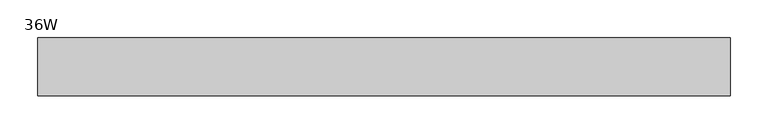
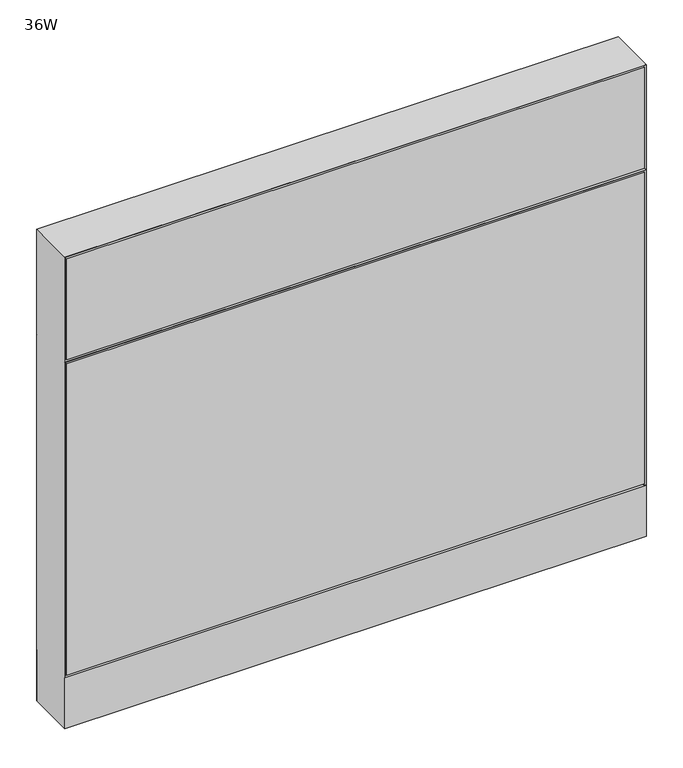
"""IFC4 building model written with IfcOpenShell, lengths in millimetres: furniture geometry, Steelcase - Montage - Frame - 31H - Enhanced Standard - Base Cavity : 36W."""

import ifcopenshell
import ifcopenshell.guid

model = None  # the IFC model being written
_history = None  # IfcOwnerHistory: only IFC2X3 demands one
_inside = {}  # id of a spatial element -> (the spatial element, [elements in it])
_under = {}  # id of a project, library or spatial element -> (it, [spatial elements below it])
_declared = {}  # id of a project -> (the project, [libraries it declares])
_typed = {}  # id of a type object -> (the type object, [elements of that type])
_made_of = {}  # id of a material, layer set ... -> (it, [elements and type objects made of it])


def new_model(schema):
    """Start an empty IFC model of exactly this schema.

    Asked for "IFC4X3", IfcOpenShell would pick the latest addendum, in which some entities
    have other attributes; the version numbers below select the first issue.
    IFC2X3 requires an IfcOwnerHistory on every rooted entity: one is made here for all.
    """
    global model, _history
    if schema == "IFC4X3":
        model = ifcopenshell.file(schema_version=(4, 3, 0, 0))
    else:
        model = ifcopenshell.file(schema=schema)
    _inside.clear()
    _under.clear()
    _declared.clear()
    _typed.clear()
    _made_of.clear()
    _history = None
    if model.schema == "IFC2X3":
        org = make("IfcOrganization", Name="unknown")
        user = make(
            "IfcPersonAndOrganization",
            ThePerson=make("IfcPerson", FamilyName="unknown"),
            TheOrganization=org,
        )
        app = make(
            "IfcApplication",
            ApplicationDeveloper=org,
            Version="unknown",
            ApplicationFullName="unknown",
            ApplicationIdentifier="unknown",
        )
        _history = make(
            "IfcOwnerHistory",
            OwningUser=user,
            OwningApplication=app,
            ChangeAction="ADDED",
            CreationDate=0,
        )
    return model


def make(cls, **values):
    """One entity of the class cls with the attributes given. An attribute that is None is left unset."""
    return model.create_entity(
        cls, **{name: value for name, value in values.items() if value is not None}
    )


def rooted(cls, **values):
    """An entity with a GlobalId (a new one), such as an element, a storey or a relation."""
    return make(cls, GlobalId=ifcopenshell.guid.new(), OwnerHistory=_history, **values)


def si_unit(unit_type, name, prefix=None):
    """IfcSIUnit, for example si_unit("LENGTHUNIT", "METRE", prefix="MILLI")."""
    return make("IfcSIUnit", UnitType=unit_type, Prefix=prefix, Name=name)


def assignment(units):
    """IfcUnitAssignment: the units of a project."""
    return None if units is None else make("IfcUnitAssignment", Units=units)


def point(xyz):
    """IfcCartesianPoint."""
    return None if xyz is None else make("IfcCartesianPoint", Coordinates=xyz)


def direction(xyz):
    """IfcDirection."""
    return None if xyz is None else make("IfcDirection", DirectionRatios=xyz)


def frame(location, z_axis=None, x_axis=None):
    """IfcAxis2Placement3D, a coordinate frame: its origin and axes. An axis left out is left unset."""
    return make(
        "IfcAxis2Placement3D",
        Location=point(location),
        Axis=direction(z_axis),
        RefDirection=direction(x_axis),
    )


def frame_2d(location, x_axis=None):
    """IfcAxis2Placement2D, a coordinate frame in the plane: its origin and x axis."""
    return make(
        "IfcAxis2Placement2D", Location=point(location), RefDirection=direction(x_axis)
    )


def origin():
    """The frame at (0, 0, 0) with its axes left unset."""
    return frame((0.0, 0.0, 0.0))


def origin_with_axes():
    """The frame at (0, 0, 0) with the z axis (0, 0, 1) and the x axis (1, 0, 0) written out."""
    return frame((0.0, 0.0, 0.0), z_axis=(0.0, 0.0, 1.0), x_axis=(1.0, 0.0, 0.0))


def place(relative_to, where):
    """IfcLocalPlacement: puts the frame where relative to a parent placement (None: the world)."""
    return make(
        "IfcLocalPlacement", PlacementRelTo=relative_to, RelativePlacement=where
    )


def context(
    kind, dimensions, precision=None, world=None, true_north=None, identifier=None
):
    """IfcGeometricRepresentationContext, for example the 3D "Model" context."""
    return make(
        "IfcGeometricRepresentationContext",
        ContextIdentifier=identifier,
        ContextType=kind,
        CoordinateSpaceDimension=dimensions,
        Precision=precision,
        WorldCoordinateSystem=world,
        TrueNorth=true_north,
    )


def project(units=None, contexts=None):
    """IfcProject with its units and contexts."""
    return rooted(
        "IfcProject",
        Name="project",
        RepresentationContexts=contexts,
        UnitsInContext=assignment(units),
    )


def spatial(cls, under=None, at=None, **own):
    """A site, building, storey or space (cls), placed at a placement, below another one or the project."""
    s = rooted(cls, ObjectPlacement=at, **own)
    if under is not None:
        _under.setdefault(under.id(), (under, []))[1].append(s)
    return s


def polyline(points):
    """IfcPolyline through the points."""
    return make("IfcPolyline", Points=[point(p) for p in points])


def circle_curve(where, radius):
    """IfcCircle in the frame where."""
    return make("IfcCircle", Position=where, Radius=radius)


def trimmed(basis, trim1, trim2, sense, master):
    """IfcTrimmedCurve: the piece of a basis curve between two trims."""
    return make(
        "IfcTrimmedCurve",
        BasisCurve=basis,
        Trim1=trim1,
        Trim2=trim2,
        SenseAgreement=sense,
        MasterRepresentation=master,
    )


def segment(curve, same_sense, transition):
    """IfcCompositeCurveSegment."""
    return make(
        "IfcCompositeCurveSegment",
        Transition=transition,
        SameSense=same_sense,
        ParentCurve=curve,
    )


def composite_curve(segments, self_intersect=None):
    """IfcCompositeCurve: segments joined end to end."""
    return make("IfcCompositeCurve", Segments=segments, SelfIntersect=self_intersect)


def outline(outer, holes=None, kind="AREA"):
    """IfcArbitraryClosedProfileDef: a profile drawn as a closed curve; with holes, ...WithVoids."""
    if holes is None:
        return make("IfcArbitraryClosedProfileDef", ProfileType=kind, OuterCurve=outer)
    return make(
        "IfcArbitraryProfileDefWithVoids",
        ProfileType=kind,
        OuterCurve=outer,
        InnerCurves=holes,
    )


def extrude(swept, where, along, depth):
    """IfcExtrudedAreaSolid: the profile swept, set in the frame where, extruded along a direction by depth."""
    return make(
        "IfcExtrudedAreaSolid",
        SweptArea=swept,
        Position=where,
        ExtrudedDirection=direction(along),
        Depth=depth,
    )


def faces_of(points, faces, orient=None, outer=None):
    """IfcFace entities. A face is a list of loops; a loop is a list of indices into points, from 0.

    orient and outer hold one flag for each loop. By default every Orientation is true, the
    first loop of a face is its IfcFaceOuterBound and the others are IfcFaceBound.
    """
    made = []
    for i, loops in enumerate(faces):
        bounds = []
        for j, loop in enumerate(loops):
            is_outer = j == 0 if outer is None else outer[i][j]
            bounds.append(
                make(
                    "IfcFaceOuterBound" if is_outer else "IfcFaceBound",
                    Bound=make("IfcPolyLoop", Polygon=[points[k] for k in loop]),
                    Orientation=True if orient is None else orient[i][j],
                )
            )
        made.append(make("IfcFace", Bounds=bounds))
    return made


def faceted_brep(points, faces, orient=None, outer=None, voids=None):
    """IfcFacetedBrep: a solid bounded by flat faces; with voids (closed shells), ...WithVoids."""
    shared = [point(p) for p in points]
    hull = make("IfcClosedShell", CfsFaces=faces_of(shared, faces, orient, outer))
    if voids is None:
        return make("IfcFacetedBrep", Outer=hull)
    return make(
        "IfcFacetedBrepWithVoids",
        Outer=hull,
        Voids=[
            make(cls, CfsFaces=faces_of(shared, fs, o, b)) for cls, fs, o, b in voids
        ],
    )


def shape(context_of_items, identifier, shape_type, items):
    """IfcShapeRepresentation: the items that make up one representation, for example the "Body"."""
    return make(
        "IfcShapeRepresentation",
        ContextOfItems=context_of_items,
        RepresentationIdentifier=identifier,
        RepresentationType=shape_type,
        Items=items,
    )


def source(mapping_origin, context_of_items, identifier, shape_type, items):
    """IfcRepresentationMap: a shape defined once, which mapped items show again and again."""
    return make(
        "IfcRepresentationMap",
        MappingOrigin=mapping_origin,
        MappedRepresentation=shape(context_of_items, identifier, shape_type, items),
    )


def transform(
    local_origin,
    x_axis=None,
    y_axis=None,
    z_axis=None,
    scale=None,
    scale2=None,
    scale3=None,
    uniform=True,
):
    """IfcCartesianTransformationOperator3D, or its non-uniform kind. x_axis, y_axis, z_axis: its Axis1, 2, 3."""
    if uniform:
        return make(
            "IfcCartesianTransformationOperator3D",
            Axis1=direction(x_axis),
            Axis2=direction(y_axis),
            LocalOrigin=point(local_origin),
            Scale=scale,
            Axis3=direction(z_axis),
        )
    return make(
        "IfcCartesianTransformationOperator3DnonUniform",
        Axis1=direction(x_axis),
        Axis2=direction(y_axis),
        LocalOrigin=point(local_origin),
        Scale=scale,
        Axis3=direction(z_axis),
        Scale2=scale2,
        Scale3=scale3,
    )


def mapped(mapping_source, mapping_target):
    """IfcMappedItem: shows the shape of a source again, moved by a transform."""
    return make(
        "IfcMappedItem", MappingSource=mapping_source, MappingTarget=mapping_target
    )


def made_of(thing, what):
    """Note that an element or type object is made of a material, layer set ...; save() writes the relation."""
    if what is not None:
        _made_of.setdefault(what.id(), (what, []))[1].append(thing)
    return thing


def element(
    cls,
    number,
    at=None,
    inside=None,
    cuts=None,
    type_object=None,
    material=None,
    context=None,
    identifier="Body",
    shape_type=None,
    held_by="IfcProductDefinitionShape",
    body=None,
    shapes=None,
    **own,
):
    """One element of the class cls, such as IfcWall. Its Tag is "e" and its number.

    at: its placement. inside: the storey or other place that contains it. cuts: it is an
    opening in that element (IfcRelVoidsElement). A single representation is given by context,
    identifier, shape_type and body (its items); several are given by shapes. held_by: the class
    of the entity that holds the representations. save() writes the other relations.
    """
    e = rooted(cls, Tag="e%d" % number, ObjectPlacement=at, **own)
    if body is not None:
        shapes = [shape(context, identifier, shape_type, body)]
    if shapes is not None:
        e.Representation = make(held_by, Representations=shapes)
    if inside is not None:
        _inside.setdefault(inside.id(), (inside, []))[1].append(e)
    if cuts is not None:
        rooted(
            "IfcRelVoidsElement", RelatingBuildingElement=cuts, RelatedOpeningElement=e
        )
    if type_object is not None:
        _typed.setdefault(type_object.id(), (type_object, []))[1].append(e)
    return made_of(e, material)


def aggregate(whole, parts):
    """IfcRelAggregates: a whole, such as a stair, and the parts it consists of."""
    return rooted("IfcRelAggregates", RelatingObject=whole, RelatedObjects=parts)


def save(model, path):
    """Write the relations noted so far, then the file.

    IfcRelAggregates (storeys below a building ...), IfcRelContainedInSpatialStructure (elements
    in a storey), IfcRelDefinesByType, IfcRelAssociatesMaterial and IfcRelDeclares: one each for
    every whole, place, type object, material and project.
    """
    for whole, parts in _under.values():
        aggregate(whole, parts)
    for where, things in _inside.values():
        rooted(
            "IfcRelContainedInSpatialStructure",
            RelatedElements=things,
            RelatingStructure=where,
        )
    for kind, things in _typed.values():
        rooted("IfcRelDefinesByType", RelatedObjects=things, RelatingType=kind)
    for what, things in _made_of.values():
        rooted("IfcRelAssociatesMaterial", RelatedObjects=things, RelatingMaterial=what)
    for by, libraries in _declared.values():
        rooted("IfcRelDeclares", RelatingContext=by, RelatedDefinitions=libraries)
    model.write(path)


def furniture_36w_22e25451(model_context):
    return source(origin(), model_context, "Body", "SolidModel", [
        faceted_brep([(-5.7e-06, 38.1026268, 612.7750028), (6.3499913, 31.7526299, 619.1249997), (908.0500048, 31.7526299, 619.1249997), (914.4, 38.1026251, 612.7750045), (908.0500048, 31.7526299, 606.4250003), (6.3499913, 31.7526299, 606.4250003)], [[[0, 1, 2, 3]], [[3, 4, 5, 0]], [[1, 5, 4, 2]], [[0, 5, 1]], [[2, 4, 3]]]),
        extrude(outline(polyline([(3.175, 31.7500194), (3.175, 38.1000194), (911.225, 38.1000194), (911.225, 31.7500194), (3.175, 31.7500194)])), frame((0.0, 0.0, 92.075), z_axis=(0.0, 0.0, 1.0), x_axis=(1.0, 0.0, 0.0)), (0.0, 0.0, 1.0), 517.525),
        extrude(outline(polyline([(3.175, 31.7500194), (3.175, 38.1000194), (911.225, 38.1000194), (911.225, 31.7500194), (3.175, 31.7500194)])), frame((0.0, 0.0, 615.95), z_axis=(0.0, 0.0, 1.0), x_axis=(1.0, 0.0, 0.0)), (0.0, 0.0, 1.0), 168.275),
        faceted_brep([(0.0, -38.1026297, 612.775), (914.4, -38.1026297, 612.775), (908.0500048, -31.7526299, 619.1249997), (6.3499913, -31.7526299, 619.1249997), (6.3499913, -31.7526299, 606.4250003), (908.0500048, -31.7526299, 606.4250003)], [[[0, 1, 2, 3]], [[1, 0, 4, 5]], [[3, 2, 5, 4]], [[0, 3, 4]], [[2, 1, 5]]]),
        extrude(outline(polyline([(3.175, -31.7500194), (911.225, -31.7500194), (911.225, -38.1000194), (3.175, -38.1000194), (3.175, -31.7500194)])), frame((0.0, 0.0, 92.075), z_axis=(0.0, 0.0, 1.0), x_axis=(1.0, 0.0, 0.0)), (0.0, 0.0, 1.0), 517.525),
        extrude(outline(polyline([(3.175, -31.7500194), (911.225, -31.7500194), (911.225, -38.1000194), (3.175, -38.1000194), (3.175, -31.7500194)])), frame((0.0, 0.0, 615.95), z_axis=(0.0, 0.0, 1.0), x_axis=(1.0, 0.0, 0.0)), (0.0, 0.0, 1.0), 168.275),
        extrude(outline(polyline([(6.350003, -31.7499985), (908.049997, -31.7499985), (914.4, -38.1000015), (0.0, -38.1000015), (6.350003, -31.7499985)])), frame((0.0, 0.0, 4.064), z_axis=(0.0, 0.0, 1.0), x_axis=(1.0, 0.0, 0.0)), (0.0, 0.0, 1.0), 84.835997),
        extrude(outline(polyline([(6.3500002, 31.7500017), (0.0, 38.1000015), (914.4, 38.1000015), (908.0500002, 31.7500017), (6.3500002, 31.7500017)])), frame((0.0, 0.0, 4.064), z_axis=(0.0, 0.0, 1.0), x_axis=(1.0, 0.0, 0.0)), (0.0, 0.0, 1.0), 84.835997),
        faceted_brep([(914.4, -38.1000015, 787.4), (0.0, -38.1000015, 787.4), (6.3500484, -31.749953, 781.0499516), (908.0499516, -31.749953, 781.0499516), (6.3500484, 31.749953, 781.0499516), (908.0499516, 31.749953, 781.0499516), (0.0, 38.1000015, 787.4), (914.4, 38.1000015, 787.4)], [[[0, 1, 2, 3]], [[3, 2, 4, 5]], [[6, 7, 5, 4]], [[1, 0, 7, 6]], [[2, 1, 6, 4]], [[0, 3, 5, 7]]]),
        extrude(outline(composite_curve([segment(trimmed(circle_curve(frame_2d((44.45, 0.0)), 15.24), [point((29.21, 0.0))], [point((59.69, 0.0))], False, "CARTESIAN"), True, "CONTINUOUS"), segment(trimmed(circle_curve(frame_2d((44.45, 0.0)), 15.24), [point((59.69, 0.0))], [point((29.21, 0.0))], False, "CARTESIAN"), True, "CONTINUOUS")], self_intersect=False)), origin_with_axes(), (0.0, 0.0, 1.0), 4.064),
        extrude(outline(composite_curve([segment(trimmed(circle_curve(frame_2d((869.95, 0.0)), 15.24), [point((854.71, 0.0))], [point((885.19, 0.0))], False, "CARTESIAN"), True, "CONTINUOUS"), segment(trimmed(circle_curve(frame_2d((869.95, 0.0)), 15.24), [point((885.19, 0.0))], [point((854.71, 0.0))], False, "CARTESIAN"), True, "CONTINUOUS")], self_intersect=False)), origin_with_axes(), (0.0, 0.0, 1.0), 4.064),
        faceted_brep([(914.4, -38.1000106, 4.064), (914.4, 38.1000015, 4.064), (914.4, 38.1000015, 787.4), (914.4, -38.1000106, 787.3999637), (0.0, 38.1000015, 4.064), (0.0, -38.1000015, 4.064), (0.0, -38.1000015, 787.4), (0.0, 38.1000015, 787.4), (908.0499879, 31.7500017, 606.425), (6.35, 31.7500017, 606.425), (6.3499998, 31.7500017, 619.125), (908.0499879, 31.7500017, 619.125), (6.35, -31.7499985, 619.125), (908.0499879, -31.7499985, 619.125), (6.350003, -31.7499985, 606.425), (908.0499879, -31.7499985, 606.425), (6.35, 31.7500015, 4.064), (6.35, -31.7500015, 4.064), (908.0499879, 31.7499894, 4.064), (908.0499879, -31.7499985, 4.064), (6.35, 31.7500015, 781.05), (6.35, -31.7500015, 781.05), (908.0499879, -31.7499985, 781.0499516), (908.0499879, 31.7499898, 781.0499516)], [[[0, 1, 2, 3]], [[4, 5, 6, 7]], [[8, 9, 10, 11]], [[11, 10, 12, 13]], [[13, 12, 14, 15]], [[9, 8, 15, 14]], [[16, 17, 5, 4]], [[18, 1, 0, 19]], [[16, 4, 7, 20, 10, 9]], [[5, 17, 14, 12, 21, 6]], [[17, 16, 9, 14]], [[12, 10, 20, 21]], [[18, 19, 15, 8]], [[11, 13, 22, 23]], [[19, 0, 3, 22, 13, 15]], [[1, 18, 8, 11, 23, 2]], [[7, 6, 21, 20]], [[3, 2, 23, 22]]]),
    ])


if __name__ == "__main__":
    model = new_model("IFC4")
    model_context = context("Model", 3, world=origin())
    ifc_project = project(units=[si_unit("LENGTHUNIT", "METRE", prefix="MILLI")], contexts=[model_context])
    site = spatial("IfcSite", under=ifc_project)
    building = spatial("IfcBuilding", under=site)
    placement = place(None, origin())
    furniture_36w_shape = furniture_36w_22e25451(model_context)
    element("IfcFurniture", 1, ObjectType="Steelcase - Montage - Frame - 31H - Enhanced Standard - Base Cavity : 36W", at=placement, inside=building, context=model_context, shape_type="MappedRepresentation", body=[
        mapped(furniture_36w_shape, transform((0.0, 0.0, 0.0), x_axis=(1.0, 0.0, 0.0), y_axis=(0.0, 1.0, 0.0), z_axis=(0.0, 0.0, 1.0))),
    ])
    save(model, "model.ifc")
